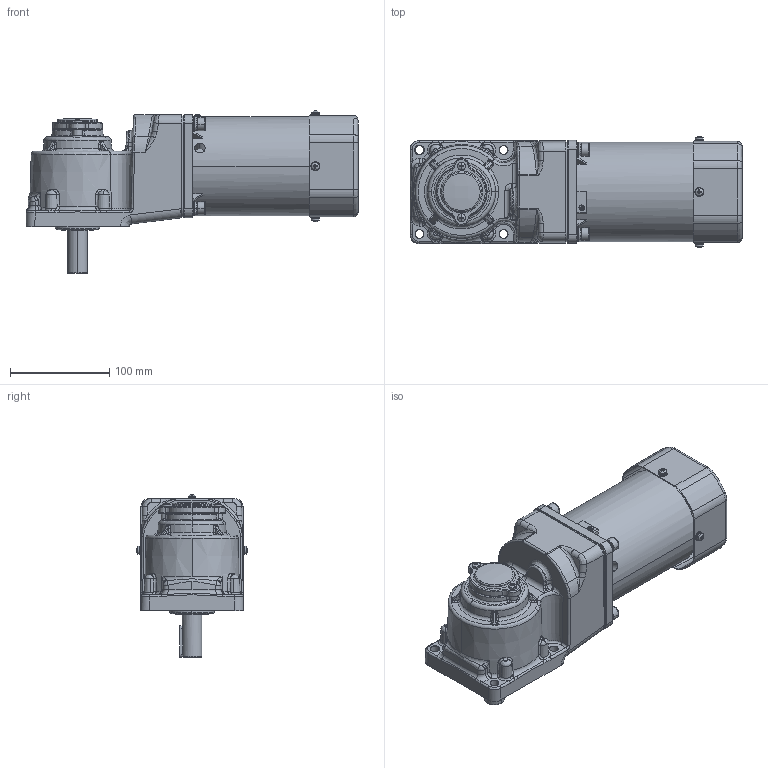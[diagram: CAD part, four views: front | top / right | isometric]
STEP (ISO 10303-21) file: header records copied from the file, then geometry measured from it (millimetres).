
FILE_DESCRIPTION (( 'STEP AP203' ), '1' );
FILE_NAME ('6IK120GU-CF(6GU3RT-180RT)ÐÂ.STEP', '2023-07-07T02:55:28', ( 'Windows User' ), ( 'P R C' ), 'SwSTEP 2.0', 'SolidWorks 2019', '' );
FILE_SCHEMA (( 'CONFIG_CONTROL_DESIGN' ));
Length unit declared in the file: millimetre
Products named in the file (5): 100RT____________________^6IK120GU-CF(6GU3RT-180RT)陔(2)_6IK120GU-CF(6GU3RT-180RT)陔; 6IK120GU-CF(6GU3RT-180RT)陔; ^_6IK120GU-CF(6GU3RT-180RT)陔(2)_6IK120GU-CF(6GU3RT-180RT)陔; 6IK120GU-CF(6GU3RT-180RT)陔(2)^6IK120GU-CF(6GU3RT-180RT)陔; ^6IK120GU-CF(6GU3RT-180RT)陔(2)_6IK120GU-CF(6GU3RT-180RT)陔
Assembly tree (4 placements, depth 4):
  6IK120GU-CF(6GU3RT-180RT)陔
    6IK120GU-CF(6GU3RT-180RT)陔(2)^6IK120GU-CF(6GU3RT-180RT)陔
      ^6IK120GU-CF(6GU3RT-180RT)陔(2)_6IK120GU-CF(6GU3RT-180RT)陔
        ^_6IK120GU-CF(6GU3RT-180RT)陔(2)_6IK120GU-CF(6GU3RT-180RT)陔
      100RT____________________^6IK120GU-CF(6GU3RT-180RT)陔(2)_6IK120GU-CF(6GU3RT-180RT)陔
Bounding box: 334.98 x 111.91 x 163.96 mm (x, y, z)
Volume: 2440867.9 mm3; surface area: 269588.4 mm2
Topology: 33 solids, 45 shells, 2054 faces, 4962 edges, 3014 vertices
Faces by surface type: plane 652, cylinder 541, bspline 344, cone 343, torus 118, sphere 56
Entity records: 79579 total; most frequent: CARTESIAN_POINT 34282, ORIENTED_EDGE 9832, DIRECTION 8817, EDGE_CURVE 4916, AXIS2_PLACEMENT_3D 3491, VERTEX_POINT 3014, EDGE_LOOP 2188, FACE_OUTER_BOUND 2054
